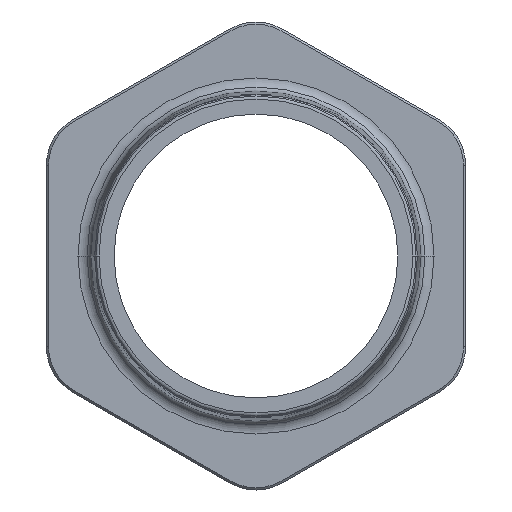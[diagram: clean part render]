
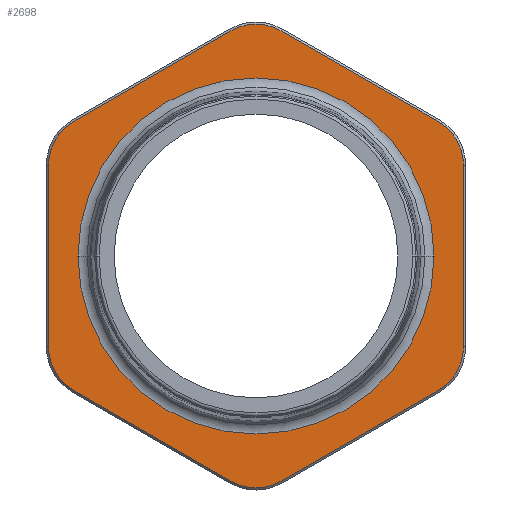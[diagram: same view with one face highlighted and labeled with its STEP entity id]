
A CAD part, left-side view. The second image highlights one B-rep face of the part: STEP entity #2698.
In plain terms, the highlighted planar face has unit normal (-1, 0, 0).
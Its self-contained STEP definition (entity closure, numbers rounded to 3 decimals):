
#848=DIRECTION('',(0.,0.,1.));
#849=VECTOR('',#848,41.126);
#850=CARTESIAN_POINT('',(-76.675,-46.994,-20.563));
#851=LINE('',#850,#849);
#898=DIRECTION('',(0.,-0.866,0.5));
#899=VECTOR('',#898,41.126);
#900=CARTESIAN_POINT('',(-76.675,-5.689,-50.98));
#901=LINE('',#900,#899);
#942=DIRECTION('',(0.,-0.866,-0.5));
#943=VECTOR('',#942,41.126);
#944=CARTESIAN_POINT('',(-76.675,41.305,-30.416));
#945=LINE('',#944,#943);
#971=DIRECTION('',(0.,0.,-1.));
#972=VECTOR('',#971,41.126);
#973=CARTESIAN_POINT('',(-76.675,46.994,20.563));
#974=LINE('',#973,#972);
#1000=DIRECTION('',(0.,0.866,-0.5));
#1001=VECTOR('',#1000,41.126);
#1002=CARTESIAN_POINT('',(-76.675,5.689,50.98));
#1003=LINE('',#1002,#1001);
#1044=DIRECTION('',(0.,0.866,0.5));
#1045=VECTOR('',#1044,41.126);
#1046=CARTESIAN_POINT('',(-76.675,-41.305,30.416));
#1047=LINE('',#1046,#1045);
#1065=CARTESIAN_POINT('',(-76.675,0.,41.126));
#1066=DIRECTION('',(1.,0.,0.));
#1067=DIRECTION('',(0.,0.5,0.866));
#1068=AXIS2_PLACEMENT_3D('',#1065,#1066,#1067);
#1073=CARTESIAN_POINT('',(-76.675,0.,41.126));
#1074=DIRECTION('',(1.,0.,0.));
#1075=DIRECTION('',(0.,0.,1.));
#1076=AXIS2_PLACEMENT_3D('',#1073,#1074,#1075);
#1081=CARTESIAN_POINT('',(-76.675,-35.617,20.563));
#1082=DIRECTION('',(1.,0.,0.));
#1083=DIRECTION('',(0.,-0.5,0.866));
#1084=AXIS2_PLACEMENT_3D('',#1081,#1082,#1083);
#1089=CARTESIAN_POINT('',(-76.675,-35.617,-20.563));
#1090=DIRECTION('',(1.,0.,0.));
#1091=DIRECTION('',(0.,-1.,0.));
#1092=AXIS2_PLACEMENT_3D('',#1089,#1090,#1091);
#1097=CARTESIAN_POINT('',(-76.675,0.,
-41.126));
#1098=DIRECTION('',(1.,0.,0.));
#1099=DIRECTION('',(0.,-0.5,-0.866));
#1100=AXIS2_PLACEMENT_3D('',#1097,#1098,#1099);
#1105=CARTESIAN_POINT('',(-76.675,0.,
-41.126));
#1106=DIRECTION('',(1.,0.,0.));
#1107=DIRECTION('',(0.,0.,-1.));
#1108=AXIS2_PLACEMENT_3D('',#1105,#1106,#1107);
#1113=CARTESIAN_POINT('',(-76.675,35.617,-20.563));
#1114=DIRECTION('',(1.,0.,0.));
#1115=DIRECTION('',(0.,0.5,-0.866));
#1116=AXIS2_PLACEMENT_3D('',#1113,#1114,#1115);
#1121=CARTESIAN_POINT('',(-76.675,35.617,20.563));
#1122=DIRECTION('',(1.,0.,0.));
#1123=DIRECTION('',(0.,1.,0.));
#1124=AXIS2_PLACEMENT_3D('',#1121,#1122,#1123);
#1129=CARTESIAN_POINT('',(-76.675,0.,0.));
#1130=DIRECTION('',(-1.,0.,0.));
#1131=DIRECTION('',(0.,1.,0.));
#1132=AXIS2_PLACEMENT_3D('',#1129,#1130,#1131);
#1137=CARTESIAN_POINT('',(-76.675,0.,0.));
#1138=DIRECTION('',(-1.,0.,0.));
#1139=DIRECTION('',(0.,-1.,0.));
#1140=AXIS2_PLACEMENT_3D('',#1137,#1138,#1139);
#1655=CARTESIAN_POINT('',(-76.675,-46.994,20.563));
#1656=VERTEX_POINT('',#1655);
#1657=CARTESIAN_POINT('',(-76.675,-41.305,30.416));
#1658=VERTEX_POINT('',#1657);
#1659=CARTESIAN_POINT('',(-76.675,-46.994,-20.563));
#1660=VERTEX_POINT('',#1659);
#1661=CARTESIAN_POINT('',(-76.675,-41.305,-30.416));
#1662=VERTEX_POINT('',#1661);
#1663=CARTESIAN_POINT('',(-76.675,-5.689,-50.98));
#1664=VERTEX_POINT('',#1663);
#1665=CARTESIAN_POINT('',(-76.675,5.689,-50.98));
#1666=VERTEX_POINT('',#1665);
#1667=CARTESIAN_POINT('',(-76.675,0.,-52.504));
#1668=VERTEX_POINT('',#1667);
#1669=CARTESIAN_POINT('',(-76.675,41.305,-30.416));
#1670=VERTEX_POINT('',#1669);
#1671=CARTESIAN_POINT('',(-76.675,46.994,-20.563));
#1672=VERTEX_POINT('',#1671);
#1673=CARTESIAN_POINT('',(-76.675,46.994,20.563));
#1674=VERTEX_POINT('',#1673);
#1675=CARTESIAN_POINT('',(-76.675,41.305,30.416));
#1676=VERTEX_POINT('',#1675);
#1677=CARTESIAN_POINT('',(-76.675,5.689,50.98));
#1678=VERTEX_POINT('',#1677);
#1679=CARTESIAN_POINT('',(-76.675,-5.689,50.98));
#1680=VERTEX_POINT('',#1679);
#1681=CARTESIAN_POINT('',(-76.675,0.,52.504));
#1682=VERTEX_POINT('',#1681);
#1683=CARTESIAN_POINT('',(-76.675,40.323,0.));
#1684=CARTESIAN_POINT('',(-76.675,-40.323,0.));
#1685=VERTEX_POINT('',#1683);
#1686=VERTEX_POINT('',#1684);
#2671=CARTESIAN_POINT('',(-76.675,-43.861,0.));
#2672=DIRECTION('',(-1.,0.,0.));
#2673=DIRECTION('',(0.,-1.,0.));
#2674=AXIS2_PLACEMENT_3D('',#2671,#2672,#2673);
#2675=PLANE('',#2674);
#2676=ORIENTED_EDGE('',*,*,#2634,.F.);
#2677=ORIENTED_EDGE('',*,*,#2650,.T.);
#2678=ORIENTED_EDGE('',*,*,#2648,.T.);
#2679=ORIENTED_EDGE('',*,*,#2664,.F.);
#2680=ORIENTED_EDGE('',*,*,#2504,.T.);
#2681=ORIENTED_EDGE('',*,*,#2519,.F.);
#2682=ORIENTED_EDGE('',*,*,#2533,.T.);
#2683=ORIENTED_EDGE('',*,*,#2549,.F.);
#2684=ORIENTED_EDGE('',*,*,#2566,.T.);
#2685=ORIENTED_EDGE('',*,*,#2564,.T.);
#2686=ORIENTED_EDGE('',*,*,#2580,.F.);
#2687=ORIENTED_EDGE('',*,*,#2594,.T.);
#2688=ORIENTED_EDGE('',*,*,#2608,.F.);
#2689=ORIENTED_EDGE('',*,*,#2620,.T.);
#2690=EDGE_LOOP('',(#2676,#2677,#2678,#2679,#2680,#2681,#2682,#2683,#2684,#2685,
#2686,#2687,#2688,#2689));
#2691=FACE_OUTER_BOUND('',#2690,.F.);
#2693=ORIENTED_EDGE('',*,*,#2692,.T.);
#2695=ORIENTED_EDGE('',*,*,#2694,.T.);
#2696=EDGE_LOOP('',(#2693,#2695));
#2697=FACE_BOUND('',#2696,.F.);
#1069=CIRCLE('',#1068,11.378);
#1077=CIRCLE('',#1076,11.378);
#1085=CIRCLE('',#1084,11.378);
#1093=CIRCLE('',#1092,11.378);
#1101=CIRCLE('',#1100,11.378);
#1109=CIRCLE('',#1108,11.378);
#1117=CIRCLE('',#1116,11.378);
#1125=CIRCLE('',#1124,11.378);
#1133=CIRCLE('',#1132,40.323);
#1141=CIRCLE('',#1140,40.323);
#2504=EDGE_CURVE('',#1658,#1656,#1085,.T.);
#2519=EDGE_CURVE('',#1660,#1656,#851,.T.);
#2533=EDGE_CURVE('',#1660,#1662,#1093,.T.);
#2549=EDGE_CURVE('',#1664,#1662,#901,.T.);
#2564=EDGE_CURVE('',#1668,#1666,#1109,.T.);
#2566=EDGE_CURVE('',#1664,#1668,#1101,.T.);
#2580=EDGE_CURVE('',#1670,#1666,#945,.T.);
#2594=EDGE_CURVE('',#1670,#1672,#1117,.T.);
#2608=EDGE_CURVE('',#1674,#1672,#974,.T.);
#2620=EDGE_CURVE('',#1674,#1676,#1125,.T.);
#2634=EDGE_CURVE('',#1678,#1676,#1003,.T.);
#2648=EDGE_CURVE('',#1682,#1680,#1077,.T.);
#2650=EDGE_CURVE('',#1678,#1682,#1069,.T.);
#2664=EDGE_CURVE('',#1658,#1680,#1047,.T.);
#2692=EDGE_CURVE('',#1685,#1686,#1133,.T.);
#2694=EDGE_CURVE('',#1686,#1685,#1141,.T.);
#2698=ADVANCED_FACE('',(#2691,#2697),#2675,.T.);
